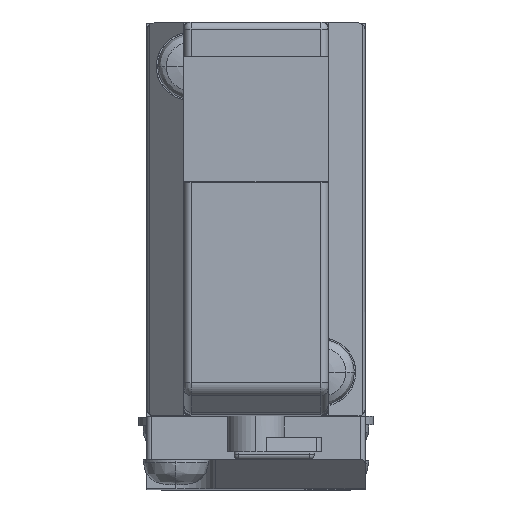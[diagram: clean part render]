
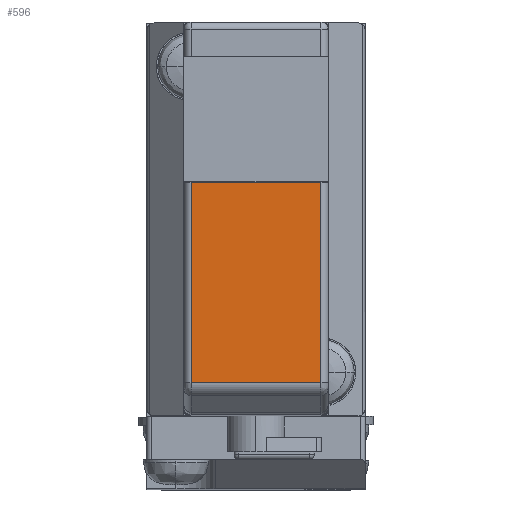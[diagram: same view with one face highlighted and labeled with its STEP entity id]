
A CAD part, top view. The second image highlights one B-rep face of the part: STEP entity #596.
In plain terms, the highlighted planar face has unit normal (0, 0, 1).
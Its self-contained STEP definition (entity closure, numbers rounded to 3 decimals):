
#596=ADVANCED_FACE('',(#3664),#3663,.F.);
#3663=PLANE('',#6052);
#3664=FACE_OUTER_BOUND('',#6053,.T.);
#6049=CARTESIAN_POINT('',(5.34,-26.133,27.4));
#6050=DIRECTION('',(0.,0.,-1.));
#6051=DIRECTION('',(-1.,0.,0.));
#6052=AXIS2_PLACEMENT_3D('',#6049,#6050,#6051);
#6053=EDGE_LOOP('',(#7937,#7938,#7939,#7940));
#7937=ORIENTED_EDGE('',*,*,#8842,.F.);
#7938=ORIENTED_EDGE('',*,*,#8899,.T.);
#7939=ORIENTED_EDGE('',*,*,#8987,.T.);
#7940=ORIENTED_EDGE('',*,*,#8922,.T.);
#8842=EDGE_CURVE('',#13315,#13322,#13323,.T.);
#8899=EDGE_CURVE('',#13315,#13704,#13711,.T.);
#8922=EDGE_CURVE('',#13842,#13322,#13861,.T.);
#8987=EDGE_CURVE('',#13704,#13842,#14287,.T.);
#13315=VERTEX_POINT('',#17554);
#13322=VERTEX_POINT('',#17559);
#13323=LINE('',#17560,#17561);
#13704=VERTEX_POINT('',#17798);
#13711=LINE('',#17803,#17804);
#13842=VERTEX_POINT('',#17886);
#13861=LINE('',#17899,#17900);
#14287=LINE('',#18144,#18145);
#17554=CARTESIAN_POINT('',(-4.45,-11.,27.4));
#17559=CARTESIAN_POINT('',(4.45,-11.,27.4));
#17560=CARTESIAN_POINT('',(-4.45,-11.,27.4));
#17561=VECTOR('',#17562,8.9);
#17562=DIRECTION('',(1.,0.,0.));
#17798=CARTESIAN_POINT('',(-4.45,-24.758,27.4));
#17803=CARTESIAN_POINT('',(-4.45,-11.,27.4));
#17804=VECTOR('',#17805,13.758);
#17805=DIRECTION('',(0.,-1.,0.));
#17886=CARTESIAN_POINT('',(4.45,-24.758,27.4));
#17899=CARTESIAN_POINT('',(4.45,-24.758,27.4));
#17900=VECTOR('',#17901,13.758);
#17901=DIRECTION('',(0.,1.,0.));
#18144=CARTESIAN_POINT('',(-4.45,-24.758,27.4));
#18145=VECTOR('',#18146,8.9);
#18146=DIRECTION('',(1.,0.,0.));
